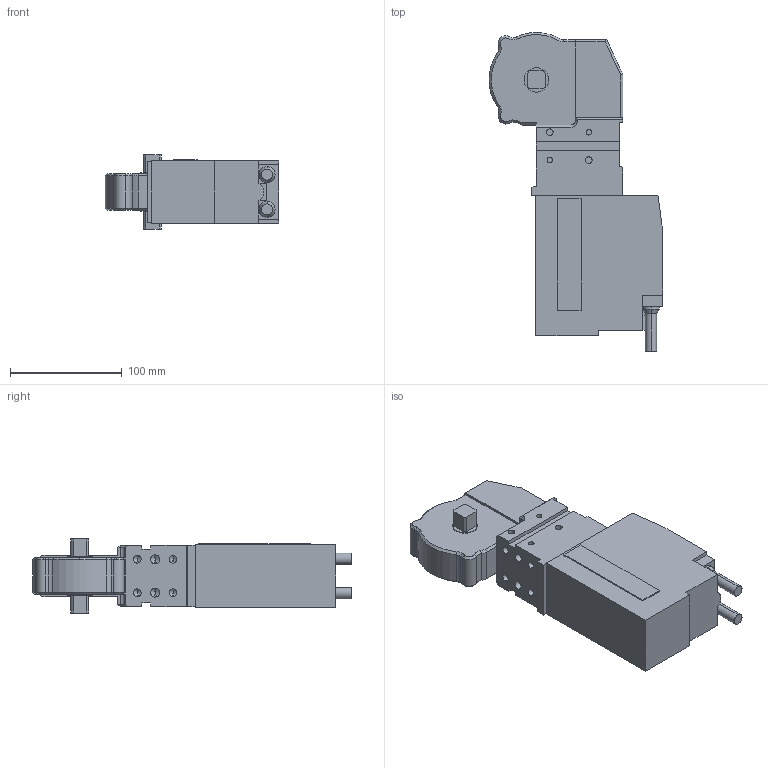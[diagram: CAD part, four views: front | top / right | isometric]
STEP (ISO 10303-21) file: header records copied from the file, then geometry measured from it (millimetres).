
FILE_DESCRIPTION((''),'2;1');
FILE_NAME('001_DESTACO_92W_1_ASM','2024-03-07T',('SYSTEM'),(''),'PRO/ENGINEER BY PARAMETRIC TECHNOLOGY CORPORATION, 2016360','PRO/ENGINEER BY PARAMETRIC TECHNOLOGY CORPORATION, 2016360','');
FILE_SCHEMA(('AUTOMOTIVE_DESIGN { 1 0 10303 214 1 1 1 1 }'));
Length unit declared in the file: millimetre
Products named in the file (5): 8GL_8GR-242-1_8MA-469-1; 92W-1_MOTOR_01_01; 8BF-654-1; SET_SCREW; 001_DESTACO_92W_1_ASM
Assembly tree (4 placements, depth 2):
  001_DESTACO_92W_1_ASM
    8GL_8GR-242-1_8MA-469-1
    92W-1_MOTOR_01_01
    8BF-654-1
    SET_SCREW
Bounding box: 156 x 285.96 x 66.5 mm (x, y, z)
Volume: 1340267.7 mm3; surface area: 119801.1 mm2
Topology: 4 solids, 4 shells, 245 faces, 598 edges, 372 vertices
Faces by surface type: plane 113, cylinder 83, cone 49
Entity records: 9730 total; most frequent: DIRECTION 1294, CARTESIAN_POINT 1229, ORIENTED_EDGE 1164, PRESENTATION_STYLE_ASSIGNMENT 653, STYLED_ITEM 586, CURVE_STYLE 582, EDGE_CURVE 582, AXIS2_PLACEMENT_3D 460
